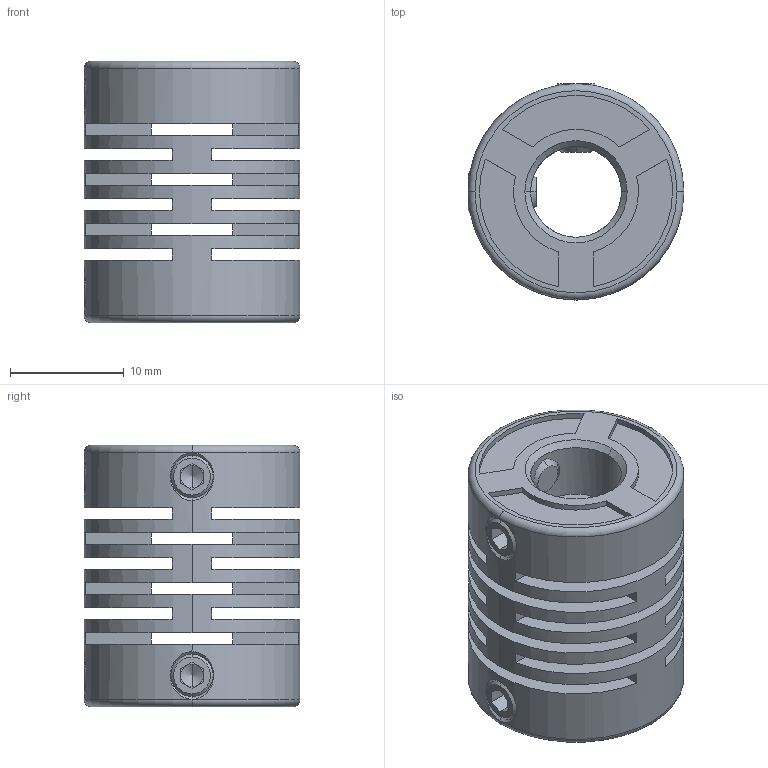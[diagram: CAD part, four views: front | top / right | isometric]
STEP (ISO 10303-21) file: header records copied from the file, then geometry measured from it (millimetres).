
FILE_DESCRIPTION (( 'STEP AP203' ), '1' );
FILE_NAME ('LR2-D-D19L23.STEP', '2021-10-28T08:15:48', ( '' ), ( '' ), 'SwSTEP 2.0', 'SolidWorks 2018', '' );
FILE_SCHEMA (( 'CONFIG_CONTROL_DESIGN' ));
Length unit declared in the file: millimetre
Products named in the file (1): LR2-D-D19L23
Bounding box: 19 x 19 x 23 mm (x, y, z)
Volume: 4067.3 mm3; surface area: 4578.6 mm2
Topology: 1 solids, 5 shells, 216 faces, 576 edges, 356 vertices
Faces by surface type: plane 124, cone 60, cylinder 28, torus 4
Entity records: 7173 total; most frequent: CARTESIAN_POINT 1601, DIRECTION 1182, ORIENTED_EDGE 1136, EDGE_CURVE 568, AXIS2_PLACEMENT_3D 429, VERTEX_POINT 356, LINE 324, VECTOR 324
